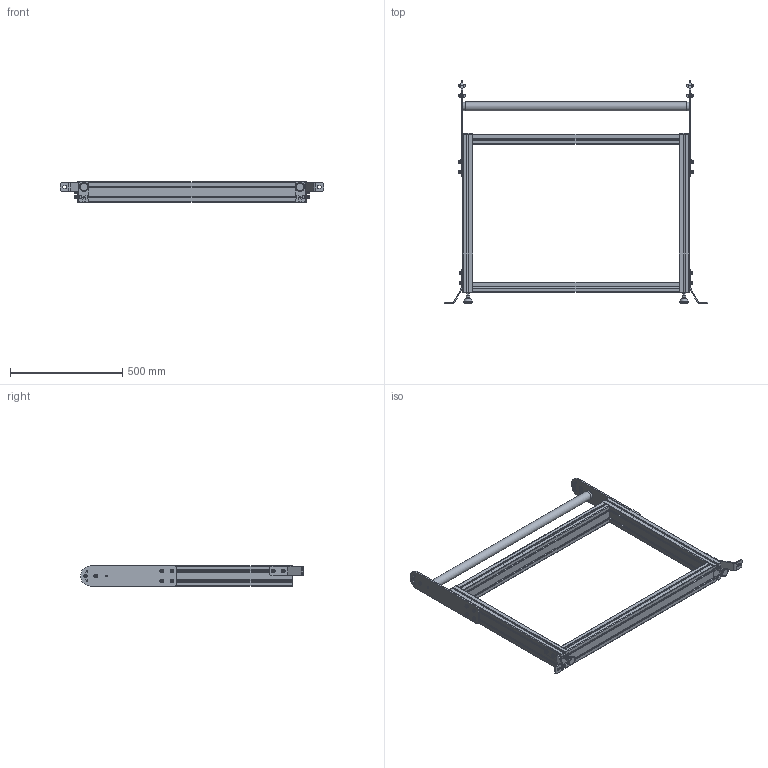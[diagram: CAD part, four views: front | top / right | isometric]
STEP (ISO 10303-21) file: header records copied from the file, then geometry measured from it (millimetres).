
FILE_DESCRIPTION (( 'STEP AP214' ), '1' );
FILE_NAME ('988-008-1000.STEP', '2022-10-10T14:14:39', ( '' ), ( '' ), 'SwSTEP 2.0', 'SolidWorks 2022', '' );
FILE_SCHEMA (( 'AUTOMOTIVE_DESIGN' ));
Length unit declared in the file: millimetre
Products named in the file (16): CHASSIS JAMBAGE TB100 1000_Défaut[Brut d''usinage]; 905-020; CHC M8X20 + RP8; 988-007; 988-008-1000; 910-100; 910-002_910-235; 935-055SV; CHC THE_910-052H; 935-055; EMBOUT_915-013; 982-010-1000; 987-017; 905-021; 935-016; RONDELLE_910-111
Assembly tree (28 placements, depth 4):
  988-008-1000
    CHASSIS JAMBAGE TB100 1000_Défaut[Brut d''usinage]
    935-055  x2
      935-055SV
      910-100
      910-002_910-235
    EMBOUT_915-013  x2
    935-016  x2
    988-007  x2
      987-017
      CHC M8X20 + RP8
        CHC THE_910-052H
        RONDELLE_910-111
      905-021
      905-020
    982-010-1000
Bounding box: 1176 x 995 x 90 mm (x, y, z)
Volume: 11517195.2 mm3; surface area: 2190603.2 mm2
Topology: 53 solids, 53 shells, 1129 faces, 2737 edges, 1744 vertices
Faces by surface type: plane 746, cylinder 221, cone 128, torus 24, sphere 8, bspline 2
Full cylindrical faces by diameter (mm): 6 x12, 6.8 x16, 7.3 x8, 7.98 x12, 8 x22, 8.4 x12, 8.5 x12, 9 x4, 13 x12, 16 x12, 17 x4, 34 x2, 40 x3
Entity records: 14783 total; most frequent: CARTESIAN_POINT 2582, DIRECTION 2328, ORIENTED_EDGE 2324, EDGE_CURVE 1162, LINE 952, VECTOR 952, VERTEX_POINT 790, AXIS2_PLACEMENT_3D 688
